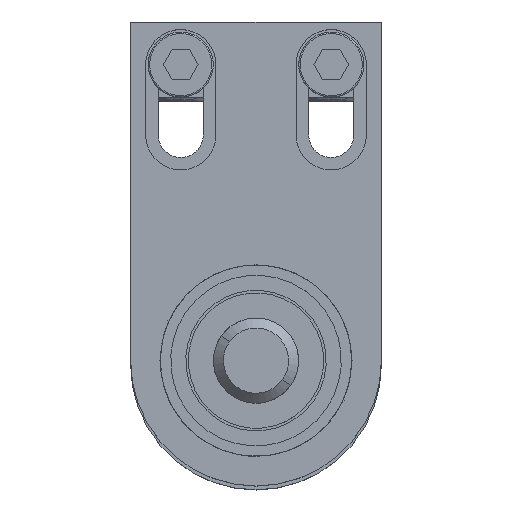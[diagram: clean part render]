
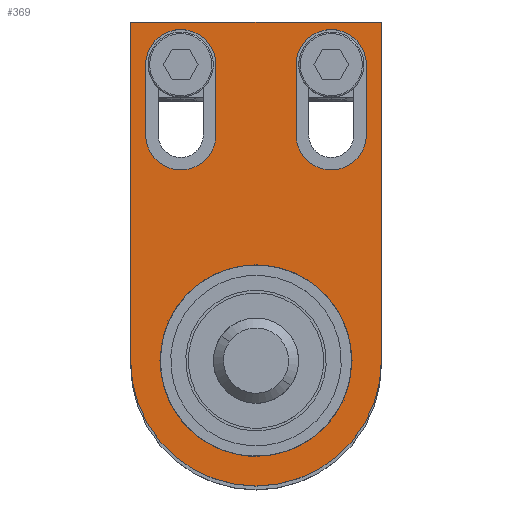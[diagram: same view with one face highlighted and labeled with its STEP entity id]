
A CAD part, top view. The second image highlights one B-rep face of the part: STEP entity #369.
In plain terms, the highlighted planar face has unit normal (0, 0, 1).
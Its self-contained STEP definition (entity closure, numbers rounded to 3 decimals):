
#116 = CIRCLE ( 'NONE', #1530, 7. ) ;
#123 = EDGE_CURVE ( 'NONE', #4509, #2102, #3031, .T. ) ;
#229 = DIRECTION ( 'NONE',  ( 0., 0., 1. ) ) ;
#285 = ORIENTED_EDGE ( 'NONE', *, *, #2728, .F. ) ;
#369 = ADVANCED_FACE ( 'NONE', ( #5178, #2007, #2737, #5550 ), #4189, .T. ) ;
#414 = AXIS2_PLACEMENT_3D ( 'NONE', #5216, #650, #572 ) ;
#477 = LINE ( 'NONE', #2861, #5770 ) ;
#489 = CARTESIAN_POINT ( 'NONE',  ( 22., 59., 6. ) ) ;
#545 = CIRCLE ( 'NONE', #4307, 7. ) ;
#571 = DIRECTION ( 'NONE',  ( 1., 0., 0. ) ) ;
#572 = DIRECTION ( 'NONE',  ( 1., 0., 0. ) ) ;
#650 = DIRECTION ( 'NONE',  ( 0., 0., 1. ) ) ;
#694 = DIRECTION ( 'NONE',  ( 0., 0., 1. ) ) ;
#715 = CARTESIAN_POINT ( 'NONE',  ( -22., 45., 6. ) ) ;
#731 = ORIENTED_EDGE ( 'NONE', *, *, #1085, .F. ) ;
#786 = AXIS2_PLACEMENT_3D ( 'NONE', #1776, #5015, #3195 ) ;
#797 = DIRECTION ( 'NONE',  ( 0., -1., 0. ) ) ;
#798 = ORIENTED_EDGE ( 'NONE', *, *, #2550, .F. ) ;
#858 = CARTESIAN_POINT ( 'NONE',  ( 0., 0., 6. ) ) ;
#884 = ORIENTED_EDGE ( 'NONE', *, *, #2949, .T. ) ;
#972 = CARTESIAN_POINT ( 'NONE',  ( 19.079, 0., 6. ) ) ;
#1003 = VERTEX_POINT ( 'NONE', #5165 ) ;
#1031 = DIRECTION ( 'NONE',  ( 0., 0., 1. ) ) ;
#1085 = EDGE_CURVE ( 'NONE', #4280, #5894, #4249, .T. ) ;
#1156 = CARTESIAN_POINT ( 'NONE',  ( 0., 0., 6. ) ) ;
#1328 = AXIS2_PLACEMENT_3D ( 'NONE', #4651, #1031, #571 ) ;
#1355 = CARTESIAN_POINT ( 'NONE',  ( 25., 67.5, 6. ) ) ;
#1448 = EDGE_LOOP ( 'NONE', ( #884, #1521, #3257, #3435 ) ) ;
#1467 = ORIENTED_EDGE ( 'NONE', *, *, #1973, .F. ) ;
#1519 = EDGE_CURVE ( 'NONE', #2974, #1003, #116, .T. ) ;
#1521 = ORIENTED_EDGE ( 'NONE', *, *, #3383, .T. ) ;
#1530 = AXIS2_PLACEMENT_3D ( 'NONE', #2768, #1828, #1849 ) ;
#1613 = EDGE_CURVE ( 'NONE', #5871, #3267, #1928, .T. ) ;
#1626 = DIRECTION ( 'NONE',  ( 1., 0., 0. ) ) ;
#1685 = ORIENTED_EDGE ( 'NONE', *, *, #5634, .F. ) ;
#1776 = CARTESIAN_POINT ( 'NONE',  ( 0., 0., 6. ) ) ;
#1828 = DIRECTION ( 'NONE',  ( 0., 0., 1. ) ) ;
#1849 = DIRECTION ( 'NONE',  ( 1., 0., 0. ) ) ;
#1853 = VECTOR ( 'NONE', #797, 1000. ) ;
#1928 = CIRCLE ( 'NONE', #786, 19.079 ) ;
#1952 = EDGE_LOOP ( 'NONE', ( #4493, #731, #1685, #4259 ) ) ;
#1973 = EDGE_CURVE ( 'NONE', #4138, #2974, #3014, .T. ) ;
#1980 = DIRECTION ( 'NONE',  ( 0., 1., 0. ) ) ;
#2007 = FACE_BOUND ( 'NONE', #5831, .T. ) ;
#2102 = VERTEX_POINT ( 'NONE', #3622 ) ;
#2124 = DIRECTION ( 'NONE',  ( 0., 0., 1. ) ) ;
#2210 = LINE ( 'NONE', #2256, #3884 ) ;
#2256 = CARTESIAN_POINT ( 'NONE',  ( -8., 59., 6. ) ) ;
#2328 = DIRECTION ( 'NONE',  ( -1., 0., 0. ) ) ;
#2354 = LINE ( 'NONE', #1355, #5615 ) ;
#2408 = ORIENTED_EDGE ( 'NONE', *, *, #1519, .F. ) ;
#2502 = CARTESIAN_POINT ( 'NONE',  ( -8., 59., 6. ) ) ;
#2550 = EDGE_CURVE ( 'NONE', #1003, #5439, #2210, .T. ) ;
#2574 = CIRCLE ( 'NONE', #4012, 7. ) ;
#2596 = DIRECTION ( 'NONE',  ( 1., 0., 0. ) ) ;
#2681 = CARTESIAN_POINT ( 'NONE',  ( 25., 0., 6. ) ) ;
#2728 = EDGE_CURVE ( 'NONE', #5439, #4138, #5919, .T. ) ;
#2737 = FACE_BOUND ( 'NONE', #3792, .T. ) ;
#2768 = CARTESIAN_POINT ( 'NONE',  ( -15., 45., 6. ) ) ;
#2861 = CARTESIAN_POINT ( 'NONE',  ( 8., 59., 6. ) ) ;
#2949 = EDGE_CURVE ( 'NONE', #2102, #4352, #5460, .T. ) ;
#2974 = VERTEX_POINT ( 'NONE', #715 ) ;
#3003 = CARTESIAN_POINT ( 'NONE',  ( 15., 59., 6. ) ) ;
#3014 = LINE ( 'NONE', #4946, #1853 ) ;
#3031 = LINE ( 'NONE', #4448, #3394 ) ;
#3063 = VERTEX_POINT ( 'NONE', #4468 ) ;
#3166 = DIRECTION ( 'NONE',  ( 1., 0., 0. ) ) ;
#3193 = DIRECTION ( 'NONE',  ( 0., 1., 0. ) ) ;
#3195 = DIRECTION ( 'NONE',  ( 1., 0., 0. ) ) ;
#3257 = ORIENTED_EDGE ( 'NONE', *, *, #5778, .T. ) ;
#3267 = VERTEX_POINT ( 'NONE', #5104 ) ;
#3323 = CARTESIAN_POINT ( 'NONE',  ( 25., 67.5, 6. ) ) ;
#3383 = EDGE_CURVE ( 'NONE', #4352, #5296, #4655, .T. ) ;
#3394 = VECTOR ( 'NONE', #5822, 1000. ) ;
#3413 = CARTESIAN_POINT ( 'NONE',  ( 22., 59., 6. ) ) ;
#3435 = ORIENTED_EDGE ( 'NONE', *, *, #123, .T. ) ;
#3588 = CIRCLE ( 'NONE', #5974, 19.079 ) ;
#3622 = CARTESIAN_POINT ( 'NONE',  ( -25., 0., 6. ) ) ;
#3683 = VECTOR ( 'NONE', #4719, 1000. ) ;
#3704 = ORIENTED_EDGE ( 'NONE', *, *, #4379, .F. ) ;
#3746 = CARTESIAN_POINT ( 'NONE',  ( -25., 67.5, 6. ) ) ;
#3792 = EDGE_LOOP ( 'NONE', ( #3704, #5257 ) ) ;
#3812 = CARTESIAN_POINT ( 'NONE',  ( 25., 0., 6. ) ) ;
#3884 = VECTOR ( 'NONE', #3193, 1000. ) ;
#4012 = AXIS2_PLACEMENT_3D ( 'NONE', #3003, #229, #4904 ) ;
#4138 = VERTEX_POINT ( 'NONE', #4826 ) ;
#4189 = PLANE ( 'NONE',  #1328 ) ;
#4249 = LINE ( 'NONE', #3413, #3683 ) ;
#4259 = ORIENTED_EDGE ( 'NONE', *, *, #4754, .F. ) ;
#4280 = VERTEX_POINT ( 'NONE', #4444 ) ;
#4307 = AXIS2_PLACEMENT_3D ( 'NONE', #4921, #694, #1626 ) ;
#4320 = VERTEX_POINT ( 'NONE', #4406 ) ;
#4352 = VERTEX_POINT ( 'NONE', #2681 ) ;
#4379 = EDGE_CURVE ( 'NONE', #3267, #5871, #3588, .T. ) ;
#4406 = CARTESIAN_POINT ( 'NONE',  ( 8., 45., 6. ) ) ;
#4444 = CARTESIAN_POINT ( 'NONE',  ( 22., 45., 6. ) ) ;
#4448 = CARTESIAN_POINT ( 'NONE',  ( -25., 0., 6. ) ) ;
#4468 = CARTESIAN_POINT ( 'NONE',  ( 8., 59., 6. ) ) ;
#4493 = ORIENTED_EDGE ( 'NONE', *, *, #5625, .F. ) ;
#4509 = VERTEX_POINT ( 'NONE', #3746 ) ;
#4651 = CARTESIAN_POINT ( 'NONE',  ( 0., 0., 6. ) ) ;
#4655 = LINE ( 'NONE', #3812, #5013 ) ;
#4719 = DIRECTION ( 'NONE',  ( 0., 1., 0. ) ) ;
#4754 = EDGE_CURVE ( 'NONE', #3063, #4320, #477, .T. ) ;
#4826 = CARTESIAN_POINT ( 'NONE',  ( -22., 59., 6. ) ) ;
#4904 = DIRECTION ( 'NONE',  ( 1., 0., 0. ) ) ;
#4921 = CARTESIAN_POINT ( 'NONE',  ( 15., 45., 6. ) ) ;
#4946 = CARTESIAN_POINT ( 'NONE',  ( -22., 59., 6. ) ) ;
#5013 = VECTOR ( 'NONE', #1980, 1000. ) ;
#5015 = DIRECTION ( 'NONE',  ( 0., 0., 1. ) ) ;
#5104 = CARTESIAN_POINT ( 'NONE',  ( -19.079, 0., 6. ) ) ;
#5165 = CARTESIAN_POINT ( 'NONE',  ( -8., 45., 6. ) ) ;
#5178 = FACE_BOUND ( 'NONE', #1952, .T. ) ;
#5186 = DIRECTION ( 'NONE',  ( 0., -1., 0. ) ) ;
#5216 = CARTESIAN_POINT ( 'NONE',  ( -15., 59., 6. ) ) ;
#5257 = ORIENTED_EDGE ( 'NONE', *, *, #1613, .F. ) ;
#5296 = VERTEX_POINT ( 'NONE', #3323 ) ;
#5439 = VERTEX_POINT ( 'NONE', #2502 ) ;
#5460 = CIRCLE ( 'NONE', #5893, 25. ) ;
#5550 = FACE_OUTER_BOUND ( 'NONE', #1448, .T. ) ;
#5615 = VECTOR ( 'NONE', #2328, 1000. ) ;
#5625 = EDGE_CURVE ( 'NONE', #5894, #3063, #2574, .T. ) ;
#5634 = EDGE_CURVE ( 'NONE', #4320, #4280, #545, .T. ) ;
#5770 = VECTOR ( 'NONE', #5186, 1000. ) ;
#5778 = EDGE_CURVE ( 'NONE', #5296, #4509, #2354, .T. ) ;
#5822 = DIRECTION ( 'NONE',  ( 0., -1., 0. ) ) ;
#5831 = EDGE_LOOP ( 'NONE', ( #285, #798, #2408, #1467 ) ) ;
#5871 = VERTEX_POINT ( 'NONE', #972 ) ;
#5893 = AXIS2_PLACEMENT_3D ( 'NONE', #1156, #2124, #2596 ) ;
#5894 = VERTEX_POINT ( 'NONE', #489 ) ;
#5919 = CIRCLE ( 'NONE', #414, 7. ) ;
#5969 = DIRECTION ( 'NONE',  ( 0., 0., 1. ) ) ;
#5974 = AXIS2_PLACEMENT_3D ( 'NONE', #858, #5969, #3166 ) ;
